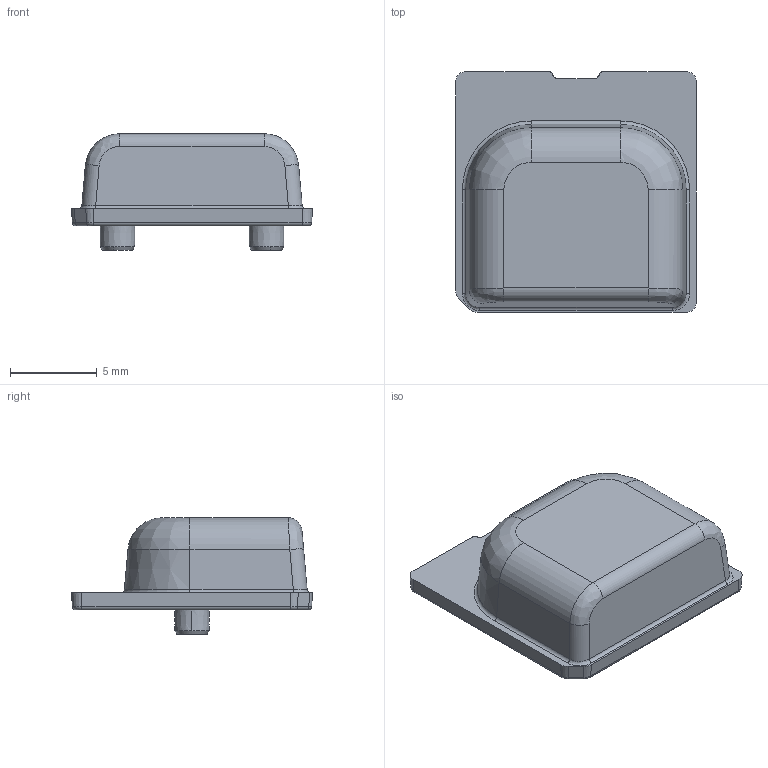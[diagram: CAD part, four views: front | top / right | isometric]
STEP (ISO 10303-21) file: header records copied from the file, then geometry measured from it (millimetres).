
FILE_DESCRIPTION(('CATIA V5 STEP Exchange'),'2;1');
FILE_NAME('Z:\Engineering\Design Library\Stradella\5-Mech_models\STRADELLA-T1-A\C16006_STRADELLA-T1-A_mechanical model.stp','2016-12-13T10:57:12+00:00',('none'),('none'),'CATIA Version 5-6 Release 2013 SP4','CATIA V5 STEP AP203','none');
FILE_SCHEMA(('CONFIG_CONTROL_DESIGN'));
Length unit declared in the file: millimetre
Products named in the file (1): C16006_STRADELLA-T1-A_mechanical model
Bounding box: 13.9 x 13.9 x 6.72 mm (x, y, z)
Volume: 581.1 mm3; surface area: 670.6 mm2
Topology: 1 solids, 1 shells, 162 faces, 385 edges, 224 vertices
Faces by surface type: cylinder 41, bspline 36, plane 33, cone 27, torus 15, sphere 6, extrusion 2, revolution 2
Entity records: 6043 total; most frequent: CARTESIAN_POINT 2763, ORIENTED_EDGE 758, DIRECTION 476, EDGE_CURVE 379, AXIS2_PLACEMENT_3D 240, VERTEX_POINT 224, EDGE_LOOP 167, ADVANCED_FACE 162
